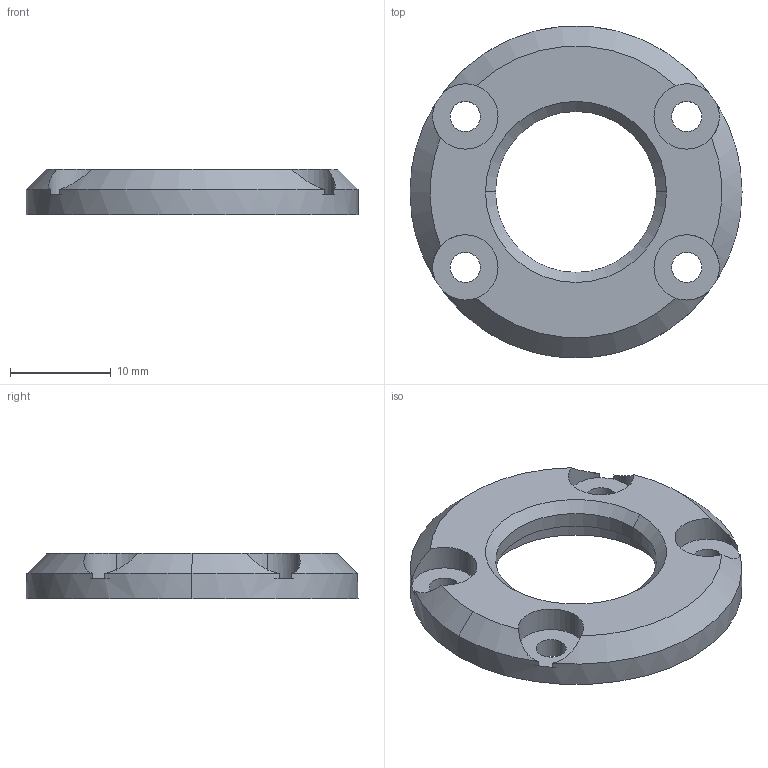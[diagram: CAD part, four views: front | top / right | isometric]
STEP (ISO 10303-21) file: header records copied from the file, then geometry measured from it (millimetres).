
FILE_DESCRIPTION (( 'STEP AP214' ), '1' );
FILE_NAME ('Ì44_Êðûøêà_Êóëàêà.STEP', '2019-03-21T13:59:01', ( '' ), ( '' ), 'SwSTEP 2.0', 'SolidWorks 2018', '' );
FILE_SCHEMA (( 'AUTOMOTIVE_DESIGN' ));
Length unit declared in the file: millimetre
Products named in the file (1): Ì44_Êðûøêà_Êóëàêà
Bounding box: 33 x 33 x 4.5 mm (x, y, z)
Volume: 2222.9 mm3; surface area: 2018.3 mm2
Topology: 1 solids, 1 shells, 40 faces, 108 edges, 71 vertices
Faces by surface type: cylinder 26, cone 7, plane 7
Entity records: 1413 total; most frequent: CARTESIAN_POINT 312, DIRECTION 241, ORIENTED_EDGE 216, EDGE_CURVE 108, AXIS2_PLACEMENT_3D 104, VERTEX_POINT 71, CIRCLE 63, EDGE_LOOP 51
